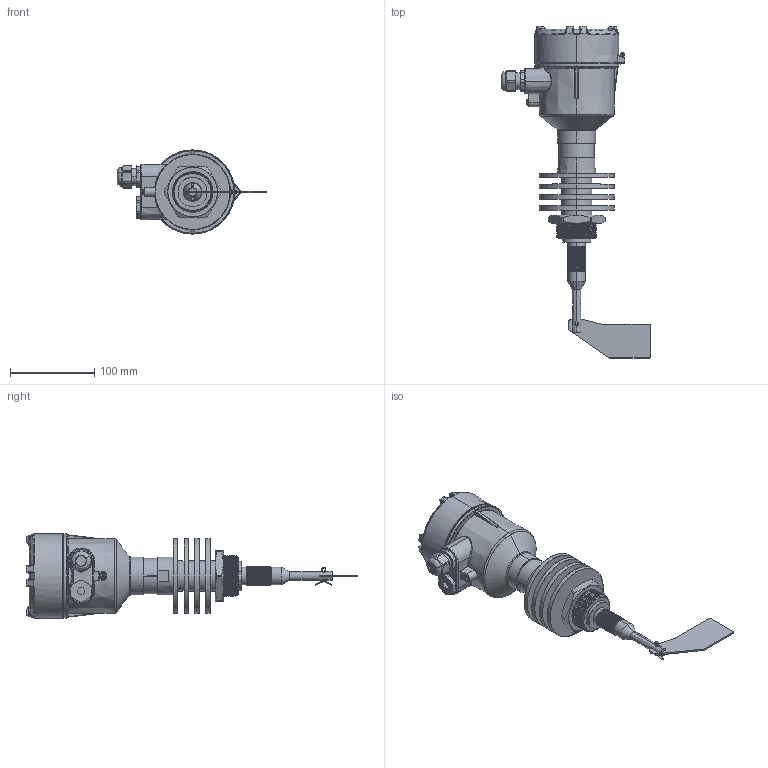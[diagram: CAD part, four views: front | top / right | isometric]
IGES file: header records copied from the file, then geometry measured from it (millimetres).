
Start section: SolidWorks IGES file using analytic representation for surfaces
Global section: file name: C:\Users\Äîì\Desktop\Äàò÷èêè ìîäåëè\IL-N-Ex-HT\Eiiian\IL-LAA-N-Ex ìóôòîâàÿ ëîïàñòü - ð.IGS; native system: SolidWorks 2020; preprocessor: SolidWorks 2020; author: Äîì; date: 201227.230637; units: millimetre
Bounding box: 178.5 x 395 x 100 mm (x, y, z)
Surface area: 171296.6 mm2 (no closed solid volume)
Topology: 0 solids, 0 shells, 932 faces, 10986 edges, 10942 vertices
Faces by surface type: bspline 561, revolution 371
